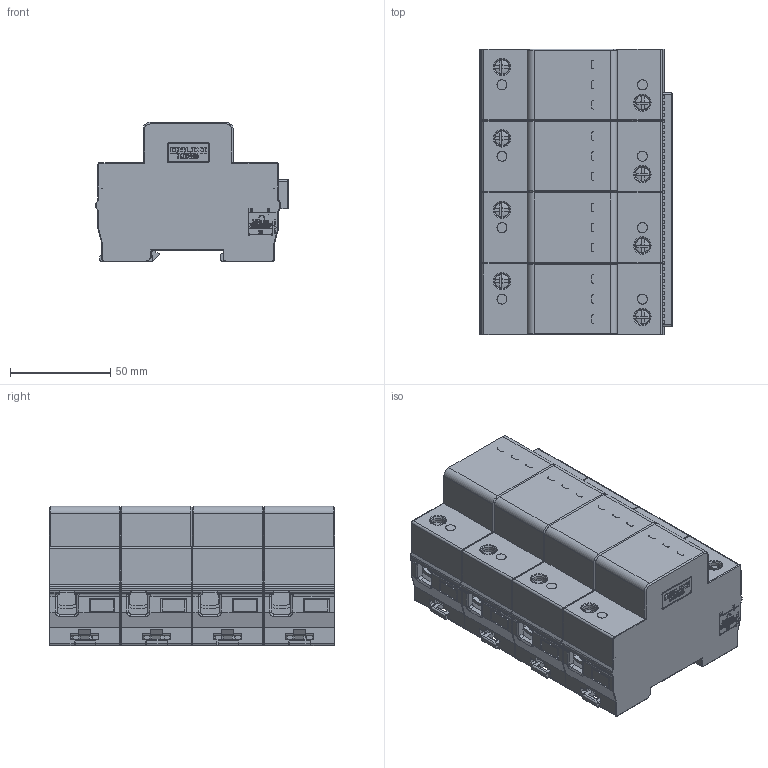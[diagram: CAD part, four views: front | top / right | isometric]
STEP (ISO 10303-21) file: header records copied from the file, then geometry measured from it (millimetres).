
FILE_DESCRIPTION((''),'2;1');
FILE_NAME('2207003000_ASM_3_SW0001','2021-11-19T',('linxiao.guan'),(''),'PRO/ENGINEER BY PARAMETRIC TECHNOLOGY CORPORATION, 2015440','PRO/ENGINEER BY PARAMETRIC TECHNOLOGY CORPORATION, 2015440','');
FILE_SCHEMA(('CONFIG_CONTROL_DESIGN'));
Products named in the file (1): 2207003000_ASM_3_SW0001
Bounding box: 95.8 x 142.4 x 69.4 mm (x, y, z)
Volume: 225069.7 mm3; surface area: 208701.8 mm2
Topology: 1 solids, 10 shells, 5688 faces, 16190 edges, 10575 vertices
Faces by surface type: plane 4371, cylinder 967, torus 154, cone 148, sphere 32, bspline 16
Entity records: 190536 total; most frequent: CARTESIAN_POINT 40556, ORIENTED_EDGE 32364, DIRECTION 29623, EDGE_CURVE 16182, VECTOR 13017, LINE 13017, VERTEX_POINT 10575, AXIS2_PLACEMENT_3D 8303
